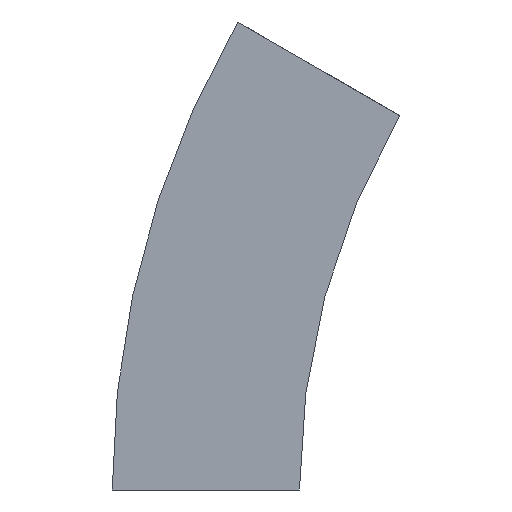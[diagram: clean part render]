
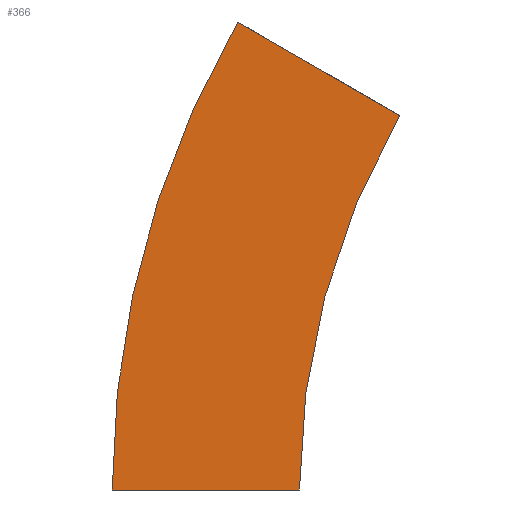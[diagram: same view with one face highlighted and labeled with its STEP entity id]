
A CAD part, left-side view. The second image highlights one B-rep face of the part: STEP entity #366.
In plain terms, the highlighted planar face has unit normal (-1, 0, 0) as drawn and (1, 0, 0) by its records, which use the part's own axes.
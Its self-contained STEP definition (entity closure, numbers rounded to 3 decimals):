
#35 = VERTEX_POINT ( 'NONE', #167 ) ;
#45 = EDGE_CURVE ( 'NONE', #419, #35, #90, .T. ) ;
#55 = DIRECTION ( 'NONE',  ( 0., 1., 0. ) ) ;
#65 = DIRECTION ( 'NONE',  ( 1., 0., 0. ) ) ;
#70 = FACE_OUTER_BOUND ( 'NONE', #302, .T. ) ;
#74 = VECTOR ( 'NONE', #234, 1000. ) ;
#76 = CARTESIAN_POINT ( 'NONE',  ( 0., 0., 0. ) ) ;
#90 = CIRCLE ( 'NONE', #496, 375. ) ;
#96 = DIRECTION ( 'NONE',  ( 1., 0., 0. ) ) ;
#133 = CARTESIAN_POINT ( 'NONE',  ( 0., 75., 0. ) ) ;
#146 = CARTESIAN_POINT ( 'NONE',  ( 0., -300., 0. ) ) ;
#167 = CARTESIAN_POINT ( 'NONE',  ( 0., 24.76, 187.5 ) ) ;
#182 = VERTEX_POINT ( 'NONE', #294 ) ;
#192 = AXIS2_PLACEMENT_3D ( 'NONE', #146, #96, #323 ) ;
#212 = EDGE_CURVE ( 'NONE', #264, #35, #283, .T. ) ;
#234 = DIRECTION ( 'NONE',  ( 0., 0.866, 0.5 ) ) ;
#235 = CARTESIAN_POINT ( 'NONE',  ( 0., 0., 0. ) ) ;
#254 = CARTESIAN_POINT ( 'NONE',  ( 0., -300., 0. ) ) ;
#263 = DIRECTION ( 'NONE',  ( 0., 1., 0. ) ) ;
#264 = VERTEX_POINT ( 'NONE', #360 ) ;
#283 = LINE ( 'NONE', #539, #74 ) ;
#294 = CARTESIAN_POINT ( 'NONE',  ( 0., 0., 0. ) ) ;
#302 = EDGE_LOOP ( 'NONE', ( #320, #432, #557, #481 ) ) ;
#320 = ORIENTED_EDGE ( 'NONE', *, *, #45, .T. ) ;
#323 = DIRECTION ( 'NONE',  ( 0., 1., 0. ) ) ;
#334 = EDGE_CURVE ( 'NONE', #182, #419, #409, .T. ) ;
#343 = DIRECTION ( 'NONE',  ( 0., 0., -1. ) ) ;
#360 = CARTESIAN_POINT ( 'NONE',  ( 0., -40.192, 150. ) ) ;
#366 = ADVANCED_FACE ( 'NONE', ( #70 ), #435, .T. ) ;
#369 = CIRCLE ( 'NONE', #192, 300. ) ;
#409 = LINE ( 'NONE', #235, #480 ) ;
#419 = VERTEX_POINT ( 'NONE', #133 ) ;
#430 = DIRECTION ( 'NONE',  ( 1., 0., 0. ) ) ;
#432 = ORIENTED_EDGE ( 'NONE', *, *, #212, .F. ) ;
#435 = PLANE ( 'NONE',  #560 ) ;
#480 = VECTOR ( 'NONE', #55, 1000. ) ;
#481 = ORIENTED_EDGE ( 'NONE', *, *, #334, .T. ) ;
#496 = AXIS2_PLACEMENT_3D ( 'NONE', #254, #65, #263 ) ;
#537 = EDGE_CURVE ( 'NONE', #182, #264, #369, .T. ) ;
#539 = CARTESIAN_POINT ( 'NONE',  ( 0., -40.192, 150. ) ) ;
#557 = ORIENTED_EDGE ( 'NONE', *, *, #537, .F. ) ;
#560 = AXIS2_PLACEMENT_3D ( 'NONE', #76, #430, #343 ) ;
